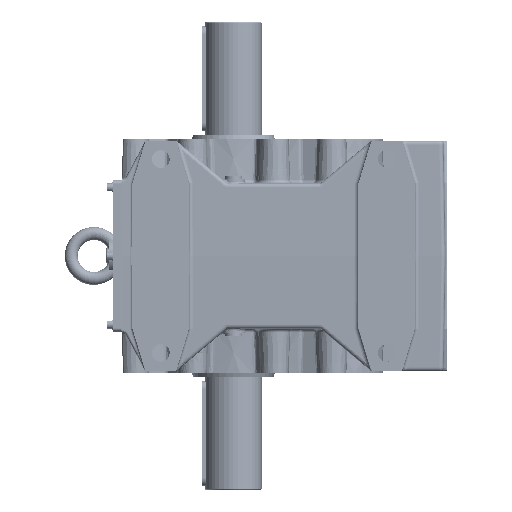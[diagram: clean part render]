
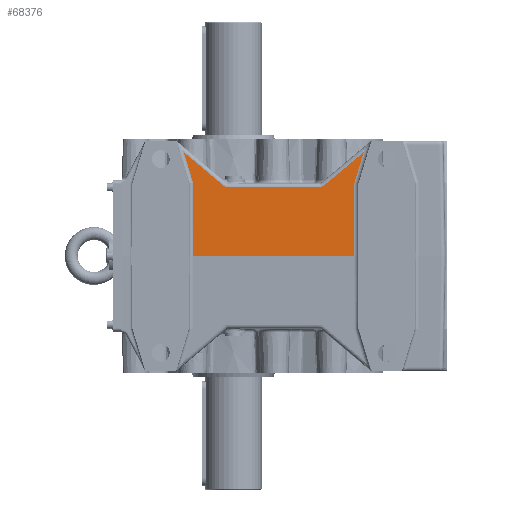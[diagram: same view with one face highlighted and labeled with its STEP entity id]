
A CAD part, left-side view. The second image highlights one B-rep face of the part: STEP entity #68376.
In plain terms, the highlighted planar face has unit normal (-1, 0, 0.018).
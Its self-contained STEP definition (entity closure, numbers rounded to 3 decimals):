
#28243=CARTESIAN_POINT('',(-156.571,-150.0,0.0));
#28244=VERTEX_POINT('',#28243);
#28294=CARTESIAN_POINT('',(-154.989,-150.0,90.651));
#28295=VERTEX_POINT('',#28294);
#28303=CARTESIAN_POINT('',(-154.989,-150.0,90.651));
#28304=DIRECTION('',(-0.017,0.0,-1.));
#28305=VECTOR('',#28304,90.665);
#28306=LINE('',#28303,#28305);
#28307=EDGE_CURVE('',#28295,#28244,#28306,.T.);
#28683=CARTESIAN_POINT('',(-156.571,50.,0.0));
#28684=VERTEX_POINT('',#28683);
#28692=CARTESIAN_POINT('',(-154.989,50.,90.651));
#28693=VERTEX_POINT('',#28692);
#28694=CARTESIAN_POINT('',(-156.571,50.,0.));
#28695=DIRECTION('',(0.017,0.0,1.));
#28696=VECTOR('',#28695,90.665);
#28697=LINE('',#28694,#28696);
#28698=EDGE_CURVE('',#28684,#28693,#28697,.T.);
#59063=CARTESIAN_POINT('',(-155.086,6.017,85.087));
#59064=VERTEX_POINT('',#59063);
#59072=CARTESIAN_POINT('',(-155.086,-106.017,85.087));
#59073=VERTEX_POINT('',#59072);
#59074=CARTESIAN_POINT('',(-155.086,6.017,85.087));
#59075=DIRECTION('',(0.0,-1.0,0.0));
#59076=VECTOR('',#59075,112.034);
#59077=LINE('',#59074,#59076);
#59078=EDGE_CURVE('',#59064,#59073,#59077,.T.);
#59113=CARTESIAN_POINT('',(-155.045,12.445,87.427));
#59114=VERTEX_POINT('',#59113);
#59122=CARTESIAN_POINT('',(-154.911,6.017,95.087));
#59123=DIRECTION('',(-1.,0.,0.017));
#59124=DIRECTION('',(-0.017,0.,-1.));
#59125=AXIS2_PLACEMENT_3D('',#59122,#59123,#59124);
#59126=ELLIPSE('',#59125,10.002,10.);
#59127=EDGE_CURVE('',#59114,#59064,#59126,.T.);
#59147=CARTESIAN_POINT('',(-154.327,61.437,128.536));
#59148=VERTEX_POINT('',#59147);
#59156=CARTESIAN_POINT('',(-154.327,61.437,128.536));
#59157=DIRECTION('',(-0.011,-0.766,-0.643));
#59158=VECTOR('',#59157,63.958);
#59159=LINE('',#59156,#59158);
#59160=EDGE_CURVE('',#59148,#59114,#59159,.T.);
#68067=CARTESIAN_POINT('',(-156.571,-150.0,0.0));
#68068=DIRECTION('',(0.0,1.0,0.0));
#68069=VECTOR('',#68068,200.);
#68070=LINE('',#68067,#68069);
#68071=EDGE_CURVE('',#28684,#28244,#68070,.F.);
#68116=CARTESIAN_POINT('',(-155.045,-112.445,87.427));
#68117=VERTEX_POINT('',#68116);
#68135=CARTESIAN_POINT('',(-154.911,-106.017,95.087));
#68136=DIRECTION('',(-1.,0.,0.017));
#68137=DIRECTION('',(-0.017,0.,-1.));
#68138=AXIS2_PLACEMENT_3D('',#68135,#68136,#68137);
#68139=ELLIPSE('',#68138,10.002,10.0);
#68140=EDGE_CURVE('',#59073,#68117,#68139,.T.);
#68150=CARTESIAN_POINT('',(-154.327,-161.437,128.536));
#68151=VERTEX_POINT('',#68150);
#68168=CARTESIAN_POINT('',(-155.045,-112.445,87.427));
#68169=DIRECTION('',(0.011,-0.766,0.643));
#68170=VECTOR('',#68169,63.958);
#68171=LINE('',#68168,#68170);
#68172=EDGE_CURVE('',#68117,#68151,#68171,.T.);
#68343=CARTESIAN_POINT('',(-154.327,-161.437,128.536));
#68344=DIRECTION('',(-0.017,0.289,-0.957));
#68345=VECTOR('',#68344,39.579);
#68346=LINE('',#68343,#68345);
#68347=EDGE_CURVE('',#68151,#28295,#68346,.T.);
#68354=CARTESIAN_POINT('',(-156.571,-260.0,0.014));
#68355=DIRECTION('',(-1.,0.,0.017));
#68356=DIRECTION('',(0.017,0.,1.));
#68357=AXIS2_PLACEMENT_3D('',#68354,#68355,#68356);
#68358=PLANE('',#68357);
#68359=ORIENTED_EDGE('',*,*,#68172,.F.);
#68360=ORIENTED_EDGE('',*,*,#68140,.F.);
#68361=ORIENTED_EDGE('',*,*,#59078,.F.);
#68362=ORIENTED_EDGE('',*,*,#59127,.F.);
#68363=ORIENTED_EDGE('',*,*,#59160,.F.);
#68364=CARTESIAN_POINT('',(-154.989,50.,90.651));
#68365=DIRECTION('',(0.017,0.289,0.957));
#68366=VECTOR('',#68365,39.579);
#68367=LINE('',#68364,#68366);
#68368=EDGE_CURVE('',#28693,#59148,#68367,.T.);
#68369=ORIENTED_EDGE('',*,*,#68368,.F.);
#68370=ORIENTED_EDGE('',*,*,#28698,.F.);
#68371=ORIENTED_EDGE('',*,*,#68071,.T.);
#68372=ORIENTED_EDGE('',*,*,#28307,.F.);
#68373=ORIENTED_EDGE('',*,*,#68347,.F.);
#68374=EDGE_LOOP('',(#68359,#68360,#68361,#68362,#68363,#68369,#68370,#68371,#68372,#68373));
#68375=FACE_OUTER_BOUND('',#68374,.T.);
#68376=ADVANCED_FACE('',(#68375),#68358,.T.);
